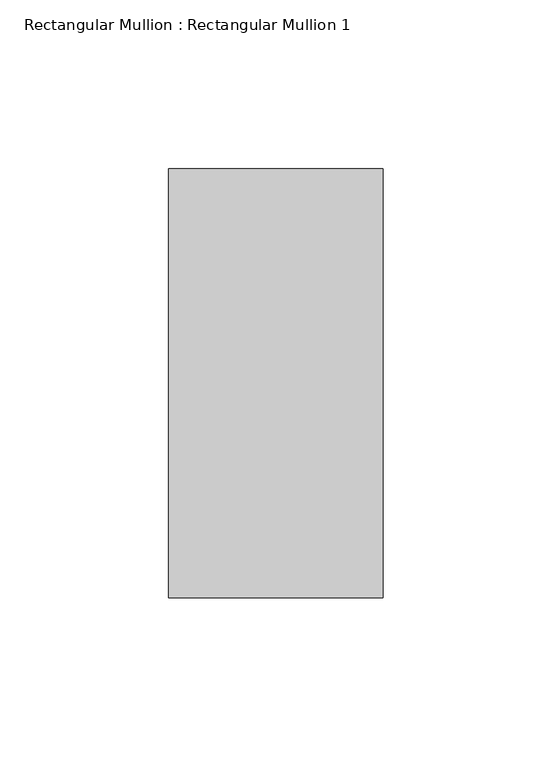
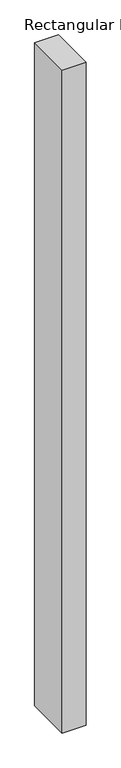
"""IFC4 building model written with IfcOpenShell, lengths in millimetres: member geometry, Rectangular Mullion : Rectangular Mullion 1."""

from ifc_helpers import new_model, si_unit, frame, origin, place, context, project, spatial, polyline, outline, extrude, source, transform, mapped, element, save


def rectangular_mullion_rectangular_mullion_1_14760a62(model_context):
    return source(origin(), model_context, "Body", "SweptSolid", [
        extrude(outline(polyline([(0.0, 63.5), (0.0, -63.5), (-63.5, -63.5), (-63.5, 63.5), (0.0, 63.5)])), frame((0.0, 0.0, -1873.0), z_axis=(0.0, 0.0, 1.0), x_axis=(1.0, 0.0, 0.0)), (0.0, 0.0, 1.0), 1873.0),
    ])


if __name__ == "__main__":
    model = new_model("IFC4")
    model_context = context("Model", 3, world=origin())
    ifc_project = project(units=[si_unit("LENGTHUNIT", "METRE", prefix="MILLI")], contexts=[model_context])
    site = spatial("IfcSite", under=ifc_project)
    building = spatial("IfcBuilding", under=site)
    placement = place(None, origin())
    rectangular_mullion_rectangular_mullion_1_shape = rectangular_mullion_rectangular_mullion_1_14760a62(model_context)
    element("IfcMember", 1, ObjectType="Rectangular Mullion : Rectangular Mullion 1", at=placement, inside=building, context=model_context, shape_type="MappedRepresentation", body=[
        mapped(rectangular_mullion_rectangular_mullion_1_shape, transform((0.0, 0.0, 0.0), x_axis=(1.0, 0.0, 0.0), y_axis=(0.0, 1.0, 0.0), z_axis=(0.0, 0.0, 1.0))),
    ])
    save(model, "model.ifc")
